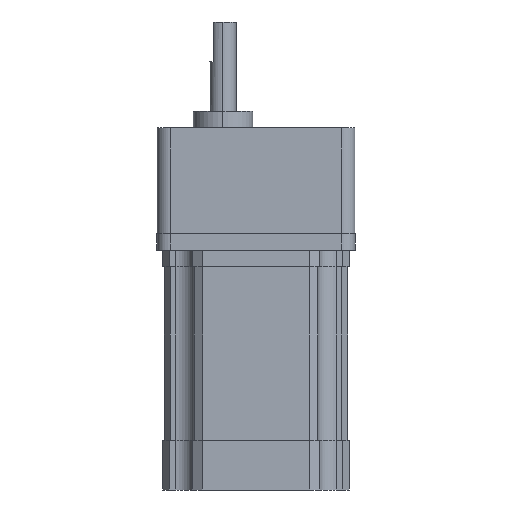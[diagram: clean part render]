
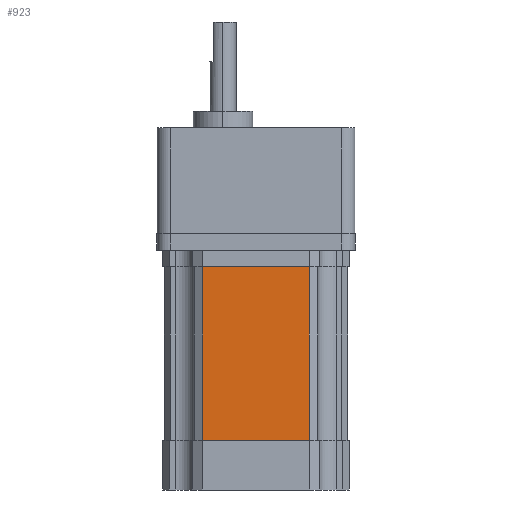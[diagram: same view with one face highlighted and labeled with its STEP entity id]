
A CAD part, left-side view. The second image highlights one B-rep face of the part: STEP entity #923.
In plain terms, the highlighted planar face has unit normal (-1, 0, 0).
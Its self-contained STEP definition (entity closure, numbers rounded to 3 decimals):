
#63 = VERTEX_POINT ( 'NONE', #3123 ) ;
#259 = VERTEX_POINT ( 'NONE', #3064 ) ;
#307 = VERTEX_POINT ( 'NONE', #2850 ) ;
#393 = LINE ( 'NONE', #526, #3004 ) ;
#446 = DIRECTION ( 'NONE',  ( 0., 1., 0. ) ) ;
#470 = DIRECTION ( 'NONE',  ( 0., 0., -1. ) ) ;
#497 = CARTESIAN_POINT ( 'NONE',  ( -27.7, -16.049, -10. ) ) ;
#503 = CARTESIAN_POINT ( 'NONE',  ( -27.7, -16.049, -10. ) ) ;
#526 = CARTESIAN_POINT ( 'NONE',  ( -27.7, -16.049, -62.5 ) ) ;
#527 = DIRECTION ( 'NONE',  ( 0., 1., 0. ) ) ;
#546 = DIRECTION ( 'NONE',  ( 0., 0., 1. ) ) ;
#553 = CARTESIAN_POINT ( 'NONE',  ( -27.7, 16.049, -10. ) ) ;
#903 = VECTOR ( 'NONE', #446, 1000. ) ;
#923 = ADVANCED_FACE ( 'NONE', ( #3444 ), #3133, .F. ) ;
#949 = CARTESIAN_POINT ( 'NONE',  ( -27.7, 16.049, -62.5 ) ) ;
#1016 = LINE ( 'NONE', #497, #903 ) ;
#1851 = ORIENTED_EDGE ( 'NONE', *, *, #3771, .F. ) ;
#2082 = LINE ( 'NONE', #553, #3715 ) ;
#2160 = ORIENTED_EDGE ( 'NONE', *, *, #3779, .F. ) ;
#2432 = ORIENTED_EDGE ( 'NONE', *, *, #3788, .T. ) ;
#2542 = ORIENTED_EDGE ( 'NONE', *, *, #3760, .F. ) ;
#2668 = VERTEX_POINT ( 'NONE', #949 ) ;
#2736 = AXIS2_PLACEMENT_3D ( 'NONE', #3050, #3040, #3035 ) ;
#2850 = CARTESIAN_POINT ( 'NONE',  ( -27.7, 16.049, -10. ) ) ;
#2917 = VECTOR ( 'NONE', #470, 1000. ) ;
#2927 = EDGE_LOOP ( 'NONE', ( #1851, #2160, #2432, #2542 ) ) ;
#3004 = VECTOR ( 'NONE', #527, 1000. ) ;
#3035 = DIRECTION ( 'NONE',  ( 0., 1., 0. ) ) ;
#3040 = DIRECTION ( 'NONE',  ( 1., 0., 0. ) ) ;
#3050 = CARTESIAN_POINT ( 'NONE',  ( -27.7, -16.049, -10. ) ) ;
#3064 = CARTESIAN_POINT ( 'NONE',  ( -27.7, -16.049, -62.5 ) ) ;
#3123 = CARTESIAN_POINT ( 'NONE',  ( -27.7, -16.049, -10. ) ) ;
#3133 = PLANE ( 'NONE',  #2736 ) ;
#3444 = FACE_OUTER_BOUND ( 'NONE', #2927, .T. ) ;
#3626 = LINE ( 'NONE', #503, #2917 ) ;
#3715 = VECTOR ( 'NONE', #546, 1000. ) ;
#3760 = EDGE_CURVE ( 'NONE', #2668, #307, #2082, .T. ) ;
#3771 = EDGE_CURVE ( 'NONE', #259, #2668, #393, .T. ) ;
#3779 = EDGE_CURVE ( 'NONE', #63, #259, #3626, .T. ) ;
#3788 = EDGE_CURVE ( 'NONE', #63, #307, #1016, .T. ) ;
